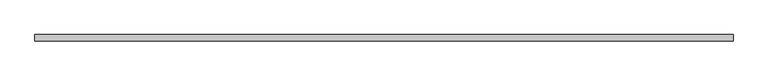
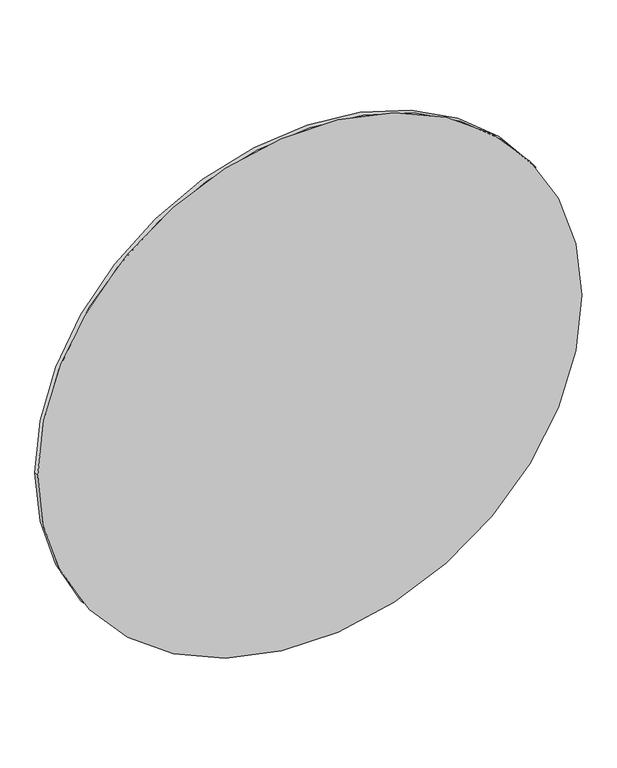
"""IFC4 building model written with IfcOpenShell, lengths in millimetres: proxy geometry, CAMBRIDGE^TABLE 1_60 ROUND-TOP BLOCKING."""

from ifc_helpers import new_model, si_unit, point, frame, origin, origin_2d, place, context, project, spatial, circle_curve, trimmed, segment, composite_curve, outline, extrude, source, transform, mapped, element, save


def generic_models_85b807a3(model_context):
    return source(origin(), model_context, "Body", "SweptSolid", [
        extrude(outline(composite_curve([segment(trimmed(circle_curve(origin_2d(), 717.55), [point((0.0, 717.55))], [point((0.0, -717.55))], False, "CARTESIAN"), True, "CONTINUOUS"), segment(trimmed(circle_curve(origin_2d(), 717.55), [point((0.0, -717.55))], [point((0.0, 717.55))], False, "CARTESIAN"), True, "CONTINUOUS")], self_intersect=False)), frame((0.0, -12.7, 0.0), z_axis=(0.0, 1.0, 0.0), x_axis=(0.0, 0.0, 1.0)), (0.0, 0.0, 1.0), 12.7),
    ])


if __name__ == "__main__":
    model = new_model("IFC4")
    model_context = context("Model", 3, world=origin())
    ifc_project = project(units=[si_unit("LENGTHUNIT", "METRE", prefix="MILLI")], contexts=[model_context])
    site = spatial("IfcSite", under=ifc_project)
    building = spatial("IfcBuilding", under=site)
    placement = place(None, origin())
    generic_models_shape = generic_models_85b807a3(model_context)
    element("IfcBuildingElementProxy", 1, Name="CAMBRIDGE^TABLE 1_60 ROUND-TOP BLOCKING", ObjectType="CAMBRIDGE^TABLE 1_60 ROUND-TOP BLOCKING", at=placement, inside=building, context=model_context, shape_type="MappedRepresentation", body=[
        mapped(generic_models_shape, transform((0.0, 0.0, 0.0), x_axis=(1.0, 0.0, 0.0), y_axis=(0.0, 1.0, 0.0), z_axis=(0.0, 0.0, 1.0))),
    ])
    save(model, "model.ifc")
